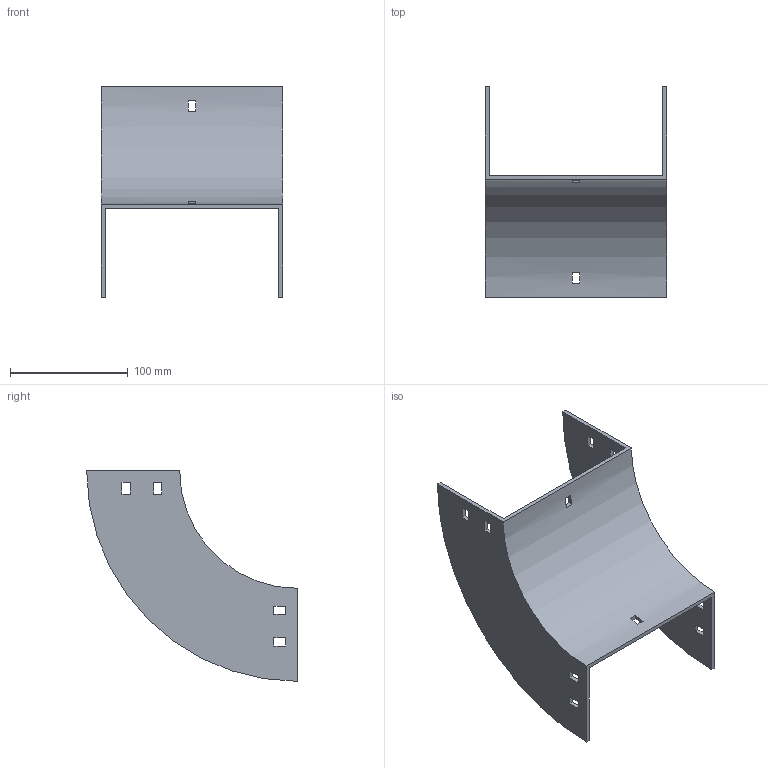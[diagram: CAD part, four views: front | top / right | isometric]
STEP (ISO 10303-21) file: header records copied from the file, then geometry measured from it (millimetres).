
FILE_DESCRIPTION (( 'STEP AP214' ), '1' );
FILE_NAME ('33B1C150.step', '2025-02-21T09:32:31', ( '' ), ( '' ), 'SwSTEP 2.0', 'SolidWorks 2023', '' );
FILE_SCHEMA (( 'AUTOMOTIVE_DESIGN' ));
Length unit declared in the file: millimetre
Products named in the file (1): 33B1C150
Bounding box: 154 x 179 x 179 mm (x, y, z)
Volume: 201033.4 mm3; surface area: 120132.2 mm2
Topology: 1 solids, 1 shells, 50 faces, 144 edges, 96 vertices
Faces by surface type: plane 46, cylinder 4
Entity records: 1687 total; most frequent: CARTESIAN_POINT 291, ORIENTED_EDGE 288, DIRECTION 262, EDGE_CURVE 144, LINE 128, VECTOR 128, VERTEX_POINT 96, EDGE_LOOP 70
